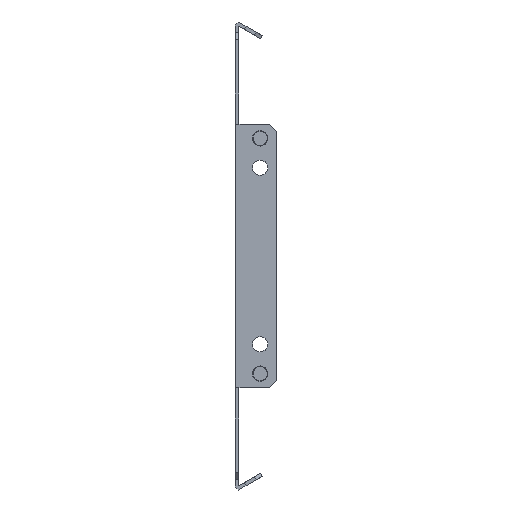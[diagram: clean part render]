
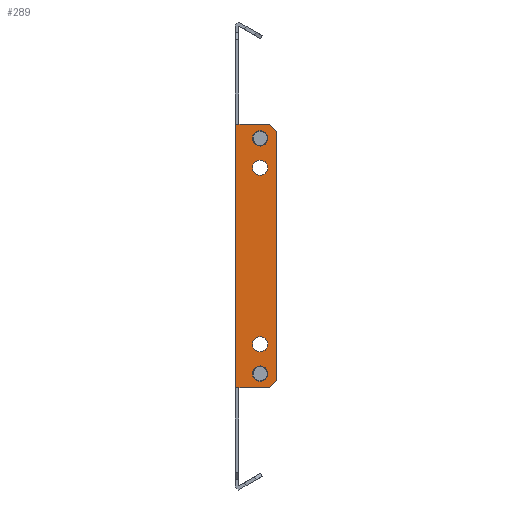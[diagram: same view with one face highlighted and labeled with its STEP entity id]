
A CAD part, front view. The second image highlights one B-rep face of the part: STEP entity #289.
In plain terms, the highlighted planar face has unit normal (0, -1, 0).
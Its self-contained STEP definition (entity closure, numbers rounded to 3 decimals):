
#10 = CARTESIAN_POINT ( 'NONE',  ( -9.873, -152.862, 1.235 ) ) ;
#26 = DIRECTION ( 'NONE',  ( 0., -1., 0. ) ) ;
#100 = VECTOR ( 'NONE', #5906, 1000. ) ;
#172 = EDGE_LOOP ( 'NONE', ( #6141, #3929 ) ) ;
#208 = DIRECTION ( 'NONE',  ( -1., 0., 0. ) ) ;
#216 = LINE ( 'NONE', #5359, #100 ) ;
#266 = CARTESIAN_POINT ( 'NONE',  ( 3.877, -152.862, -48.765 ) ) ;
#289 = ADVANCED_FACE ( 'NONE', ( #5702, #6238, #1969, #4465, #7569 ), #2512, .F. ) ;
#319 = ORIENTED_EDGE ( 'NONE', *, *, #5711, .F. ) ;
#346 = AXIS2_PLACEMENT_3D ( 'NONE', #1758, #1135, #3672 ) ;
#406 = DIRECTION ( 'NONE',  ( 0., 0., 1. ) ) ;
#465 = ORIENTED_EDGE ( 'NONE', *, *, #7841, .T. ) ;
#502 = ORIENTED_EDGE ( 'NONE', *, *, #3939, .T. ) ;
#529 = CARTESIAN_POINT ( 'NONE',  ( -2.623, -152.862, -36.265 ) ) ;
#604 = VERTEX_POINT ( 'NONE', #3491 ) ;
#611 = DIRECTION ( 'NONE',  ( -1., 0., 0. ) ) ;
#640 = DIRECTION ( 'NONE',  ( -1., 0., 0. ) ) ;
#642 = LINE ( 'NONE', #5700, #6934 ) ;
#654 = CARTESIAN_POINT ( 'NONE',  ( -9.873, -152.862, 1.235 ) ) ;
#668 = CARTESIAN_POINT ( 'NONE',  ( 0.627, -152.862, -36.265 ) ) ;
#992 = CARTESIAN_POINT ( 'NONE',  ( 7.627, -152.862, 54.235 ) ) ;
#1002 = EDGE_CURVE ( 'NONE', #5231, #3393, #642, .T. ) ;
#1135 = DIRECTION ( 'NONE',  ( 0., -1., 0. ) ) ;
#1187 = VERTEX_POINT ( 'NONE', #6711 ) ;
#1208 = CARTESIAN_POINT ( 'NONE',  ( -9.873, -152.862, -54.765 ) ) ;
#1258 = EDGE_CURVE ( 'NONE', #604, #5553, #6567, .T. ) ;
#1281 = CIRCLE ( 'NONE', #2095, 3.25 ) ;
#1284 = AXIS2_PLACEMENT_3D ( 'NONE', #3861, #26, #611 ) ;
#1324 = LINE ( 'NONE', #7636, #6702 ) ;
#1365 = VERTEX_POINT ( 'NONE', #6219 ) ;
#1376 = VECTOR ( 'NONE', #640, 1000. ) ;
#1396 = VERTEX_POINT ( 'NONE', #529 ) ;
#1414 = AXIS2_PLACEMENT_3D ( 'NONE', #7979, #2344, #2841 ) ;
#1436 = DIRECTION ( 'NONE',  ( 0., -1., 0. ) ) ;
#1444 = EDGE_CURVE ( 'NONE', #2461, #1396, #7378, .T. ) ;
#1758 = CARTESIAN_POINT ( 'NONE',  ( 0.627, -152.862, 38.735 ) ) ;
#1860 = DIRECTION ( 'NONE',  ( -1., 0., 0. ) ) ;
#1939 = VERTEX_POINT ( 'NONE', #6497 ) ;
#1947 = DIRECTION ( 'NONE',  ( 1., 0., 0. ) ) ;
#1964 = LINE ( 'NONE', #2085, #1376 ) ;
#1969 = FACE_BOUND ( 'NONE', #4227, .T. ) ;
#1979 = ORIENTED_EDGE ( 'NONE', *, *, #1002, .T. ) ;
#2085 = CARTESIAN_POINT ( 'NONE',  ( -9.873, -152.862, 57.235 ) ) ;
#2092 = CARTESIAN_POINT ( 'NONE',  ( 7.627, -152.862, -51.765 ) ) ;
#2095 = AXIS2_PLACEMENT_3D ( 'NONE', #4735, #4622, #208 ) ;
#2344 = DIRECTION ( 'NONE',  ( 0., -1., 0. ) ) ;
#2375 = CARTESIAN_POINT ( 'NONE',  ( 0.627, -152.862, -48.765 ) ) ;
#2381 = DIRECTION ( 'NONE',  ( -0.707, 0., 0.707 ) ) ;
#2415 = DIRECTION ( 'NONE',  ( 0., -1., 0. ) ) ;
#2429 = CARTESIAN_POINT ( 'NONE',  ( 3.877, -152.862, 51.235 ) ) ;
#2461 = VERTEX_POINT ( 'NONE', #4092 ) ;
#2512 = PLANE ( 'NONE',  #4303 ) ;
#2548 = AXIS2_PLACEMENT_3D ( 'NONE', #2375, #2415, #3656 ) ;
#2568 = EDGE_CURVE ( 'NONE', #6040, #3554, #5327, .T. ) ;
#2683 = CIRCLE ( 'NONE', #4804, 3.25 ) ;
#2701 = VECTOR ( 'NONE', #4278, 1000. ) ;
#2734 = VECTOR ( 'NONE', #3179, 1000. ) ;
#2805 = CARTESIAN_POINT ( 'NONE',  ( 0.627, -152.862, 51.235 ) ) ;
#2841 = DIRECTION ( 'NONE',  ( -1., 0., 0. ) ) ;
#2898 = DIRECTION ( 'NONE',  ( 0.707, 0., 0.707 ) ) ;
#2907 = VERTEX_POINT ( 'NONE', #5615 ) ;
#3125 = EDGE_CURVE ( 'NONE', #5823, #1365, #2683, .T. ) ;
#3150 = ORIENTED_EDGE ( 'NONE', *, *, #4839, .T. ) ;
#3179 = DIRECTION ( 'NONE',  ( 0., 0., -1. ) ) ;
#3230 = ORIENTED_EDGE ( 'NONE', *, *, #2568, .F. ) ;
#3360 = EDGE_CURVE ( 'NONE', #1187, #7412, #6336, .T. ) ;
#3393 = VERTEX_POINT ( 'NONE', #7155 ) ;
#3453 = EDGE_LOOP ( 'NONE', ( #5858, #1979, #502, #3150, #6415, #5089, #465, #8201 ) ) ;
#3491 = CARTESIAN_POINT ( 'NONE',  ( 4.627, -152.862, -54.765 ) ) ;
#3554 = VERTEX_POINT ( 'NONE', #266 ) ;
#3606 = CARTESIAN_POINT ( 'NONE',  ( -7.373, -152.862, 57.235 ) ) ;
#3656 = DIRECTION ( 'NONE',  ( -1., 0., 0. ) ) ;
#3672 = DIRECTION ( 'NONE',  ( -1., 0., 0. ) ) ;
#3816 = CIRCLE ( 'NONE', #1414, 3.25 ) ;
#3861 = CARTESIAN_POINT ( 'NONE',  ( 0.627, -152.862, -36.265 ) ) ;
#3896 = CARTESIAN_POINT ( 'NONE',  ( 0.627, -152.862, -48.765 ) ) ;
#3929 = ORIENTED_EDGE ( 'NONE', *, *, #3125, .F. ) ;
#3936 = VECTOR ( 'NONE', #406, 1000. ) ;
#3939 = EDGE_CURVE ( 'NONE', #3393, #2907, #1964, .T. ) ;
#4092 = CARTESIAN_POINT ( 'NONE',  ( 3.877, -152.862, -36.265 ) ) ;
#4227 = EDGE_LOOP ( 'NONE', ( #3230, #5143 ) ) ;
#4278 = DIRECTION ( 'NONE',  ( -1., 0., 0. ) ) ;
#4303 = AXIS2_PLACEMENT_3D ( 'NONE', #10, #8149, #6201 ) ;
#4465 = FACE_BOUND ( 'NONE', #6385, .T. ) ;
#4564 = VERTEX_POINT ( 'NONE', #5590 ) ;
#4597 = DIRECTION ( 'NONE',  ( -1., 0., 0. ) ) ;
#4620 = CARTESIAN_POINT ( 'NONE',  ( -2.623, -152.862, 38.735 ) ) ;
#4622 = DIRECTION ( 'NONE',  ( 0., -1., 0. ) ) ;
#4735 = CARTESIAN_POINT ( 'NONE',  ( 0.627, -152.862, 51.235 ) ) ;
#4804 = AXIS2_PLACEMENT_3D ( 'NONE', #2805, #7316, #6117 ) ;
#4839 = EDGE_CURVE ( 'NONE', #2907, #1187, #5597, .T. ) ;
#4891 = EDGE_LOOP ( 'NONE', ( #319, #6898 ) ) ;
#5089 = ORIENTED_EDGE ( 'NONE', *, *, #6635, .F. ) ;
#5143 = ORIENTED_EDGE ( 'NONE', *, *, #5497, .F. ) ;
#5231 = VERTEX_POINT ( 'NONE', #992 ) ;
#5326 = CARTESIAN_POINT ( 'NONE',  ( -2.623, -152.862, -48.765 ) ) ;
#5327 = CIRCLE ( 'NONE', #2548, 3.25 ) ;
#5328 = EDGE_CURVE ( 'NONE', #5553, #5231, #6131, .T. ) ;
#5359 = CARTESIAN_POINT ( 'NONE',  ( -9.873, -152.862, -54.765 ) ) ;
#5497 = EDGE_CURVE ( 'NONE', #3554, #6040, #6446, .T. ) ;
#5553 = VERTEX_POINT ( 'NONE', #6456 ) ;
#5590 = CARTESIAN_POINT ( 'NONE',  ( 3.877, -152.862, 38.735 ) ) ;
#5597 = LINE ( 'NONE', #3606, #2701 ) ;
#5615 = CARTESIAN_POINT ( 'NONE',  ( -7.373, -152.862, 57.235 ) ) ;
#5651 = AXIS2_PLACEMENT_3D ( 'NONE', #3896, #1436, #4597 ) ;
#5700 = CARTESIAN_POINT ( 'NONE',  ( 4.627, -152.862, 57.235 ) ) ;
#5702 = FACE_BOUND ( 'NONE', #172, .T. ) ;
#5711 = EDGE_CURVE ( 'NONE', #6256, #4564, #3816, .T. ) ;
#5823 = VERTEX_POINT ( 'NONE', #2429 ) ;
#5830 = EDGE_CURVE ( 'NONE', #4564, #6256, #6051, .T. ) ;
#5858 = ORIENTED_EDGE ( 'NONE', *, *, #5328, .T. ) ;
#5906 = DIRECTION ( 'NONE',  ( -1., 0., 0. ) ) ;
#6040 = VERTEX_POINT ( 'NONE', #5326 ) ;
#6051 = CIRCLE ( 'NONE', #346, 3.25 ) ;
#6117 = DIRECTION ( 'NONE',  ( -1., 0., 0. ) ) ;
#6131 = LINE ( 'NONE', #6754, #3936 ) ;
#6141 = ORIENTED_EDGE ( 'NONE', *, *, #7584, .F. ) ;
#6191 = AXIS2_PLACEMENT_3D ( 'NONE', #668, #7419, #1860 ) ;
#6201 = DIRECTION ( 'NONE',  ( 1., 0., 0. ) ) ;
#6219 = CARTESIAN_POINT ( 'NONE',  ( -2.623, -152.862, 51.235 ) ) ;
#6238 = FACE_BOUND ( 'NONE', #4891, .T. ) ;
#6256 = VERTEX_POINT ( 'NONE', #4620 ) ;
#6325 = CIRCLE ( 'NONE', #1284, 3.25 ) ;
#6336 = LINE ( 'NONE', #654, #2734 ) ;
#6385 = EDGE_LOOP ( 'NONE', ( #6522, #6895 ) ) ;
#6415 = ORIENTED_EDGE ( 'NONE', *, *, #3360, .T. ) ;
#6446 = CIRCLE ( 'NONE', #5651, 3.25 ) ;
#6456 = CARTESIAN_POINT ( 'NONE',  ( 7.627, -152.862, -51.765 ) ) ;
#6497 = CARTESIAN_POINT ( 'NONE',  ( -7.373, -152.862, -54.765 ) ) ;
#6522 = ORIENTED_EDGE ( 'NONE', *, *, #8198, .F. ) ;
#6567 = LINE ( 'NONE', #2092, #7007 ) ;
#6635 = EDGE_CURVE ( 'NONE', #1939, #7412, #216, .T. ) ;
#6702 = VECTOR ( 'NONE', #1947, 1000. ) ;
#6711 = CARTESIAN_POINT ( 'NONE',  ( -9.873, -152.862, 57.235 ) ) ;
#6754 = CARTESIAN_POINT ( 'NONE',  ( 7.627, -152.862, 1.235 ) ) ;
#6895 = ORIENTED_EDGE ( 'NONE', *, *, #1444, .F. ) ;
#6898 = ORIENTED_EDGE ( 'NONE', *, *, #5830, .F. ) ;
#6934 = VECTOR ( 'NONE', #2381, 1000. ) ;
#7007 = VECTOR ( 'NONE', #2898, 1000. ) ;
#7155 = CARTESIAN_POINT ( 'NONE',  ( 4.627, -152.862, 57.235 ) ) ;
#7316 = DIRECTION ( 'NONE',  ( 0., -1., 0. ) ) ;
#7378 = CIRCLE ( 'NONE', #6191, 3.25 ) ;
#7412 = VERTEX_POINT ( 'NONE', #1208 ) ;
#7419 = DIRECTION ( 'NONE',  ( 0., -1., 0. ) ) ;
#7569 = FACE_OUTER_BOUND ( 'NONE', #3453, .T. ) ;
#7584 = EDGE_CURVE ( 'NONE', #1365, #5823, #1281, .T. ) ;
#7636 = CARTESIAN_POINT ( 'NONE',  ( -9.873, -152.862, -54.765 ) ) ;
#7841 = EDGE_CURVE ( 'NONE', #1939, #604, #1324, .T. ) ;
#7979 = CARTESIAN_POINT ( 'NONE',  ( 0.627, -152.862, 38.735 ) ) ;
#8149 = DIRECTION ( 'NONE',  ( 0., 1., 0. ) ) ;
#8198 = EDGE_CURVE ( 'NONE', #1396, #2461, #6325, .T. ) ;
#8201 = ORIENTED_EDGE ( 'NONE', *, *, #1258, .T. ) ;
